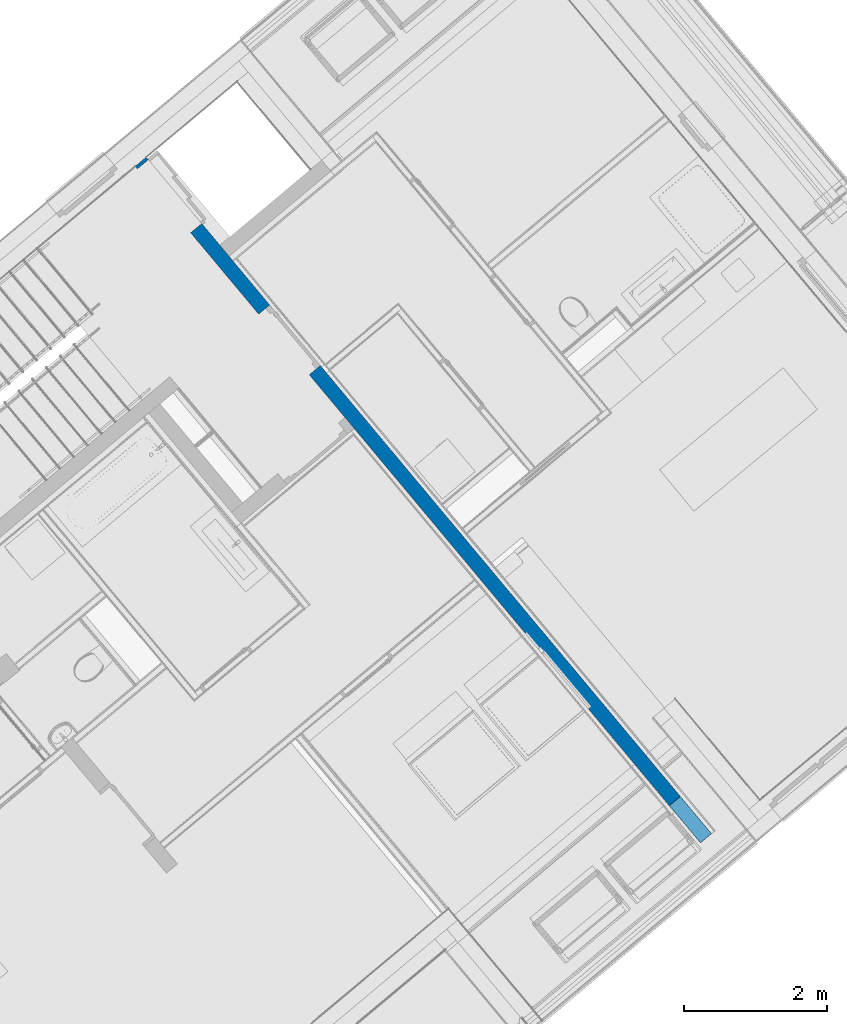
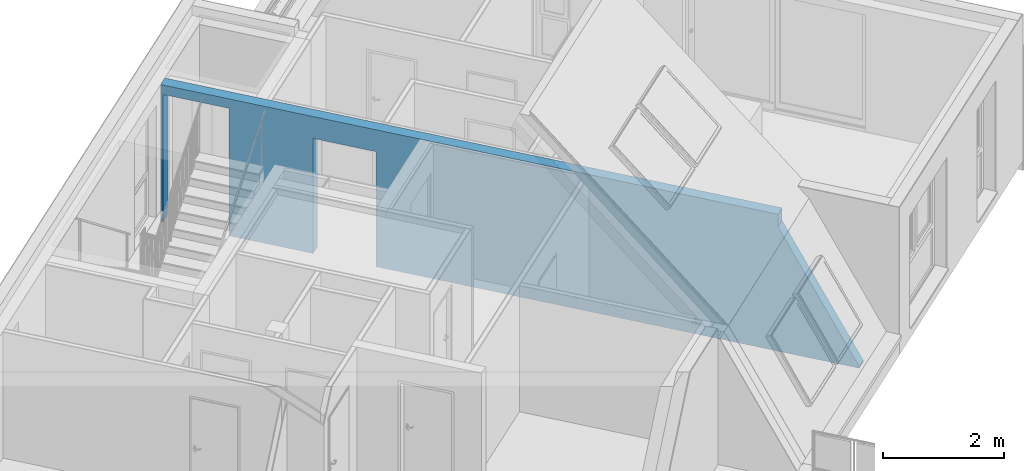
# One storey, part 9 of 61: 1 wall, 2 openings.
"""IFC4 building model written with IfcOpenShell, lengths in metres."""

import ifcopenshell
import ifcopenshell.guid

model = None  # the IFC model being written
_history = None  # IfcOwnerHistory: only IFC2X3 demands one
_inside = {}  # id of a spatial element -> (the spatial element, [elements in it])
_under = {}  # id of a project, library or spatial element -> (it, [spatial elements below it])
_declared = {}  # id of a project -> (the project, [libraries it declares])
_typed = {}  # id of a type object -> (the type object, [elements of that type])
_made_of = {}  # id of a material, layer set ... -> (it, [elements and type objects made of it])


def new_model(schema):
    """Start an empty IFC model of exactly this schema.

    Asked for "IFC4X3", IfcOpenShell would pick the latest addendum, in which some entities
    have other attributes; the version numbers below select the first issue.
    IFC2X3 requires an IfcOwnerHistory on every rooted entity: one is made here for all.
    """
    global model, _history
    if schema == "IFC4X3":
        model = ifcopenshell.file(schema_version=(4, 3, 0, 0))
    else:
        model = ifcopenshell.file(schema=schema)
    _inside.clear()
    _under.clear()
    _declared.clear()
    _typed.clear()
    _made_of.clear()
    _history = None
    if model.schema == "IFC2X3":
        org = make("IfcOrganization", Name="unknown")
        user = make(
            "IfcPersonAndOrganization",
            ThePerson=make("IfcPerson", FamilyName="unknown"),
            TheOrganization=org,
        )
        app = make(
            "IfcApplication",
            ApplicationDeveloper=org,
            Version="unknown",
            ApplicationFullName="unknown",
            ApplicationIdentifier="unknown",
        )
        _history = make(
            "IfcOwnerHistory",
            OwningUser=user,
            OwningApplication=app,
            ChangeAction="ADDED",
            CreationDate=0,
        )
    return model


def make(cls, **values):
    """One entity of the class cls with the attributes given. An attribute that is None is left unset."""
    return model.create_entity(
        cls, **{name: value for name, value in values.items() if value is not None}
    )


def entity(cls, *values):
    """Any entity or typed value of the class cls, its attributes in the order of the schema. None: left unset."""
    e = model.create_entity(cls)
    for i, value in enumerate(values):
        if value is not None:
            e[i] = value
    return e


def rooted(cls, **values):
    """An entity with a GlobalId (a new one), such as an element, a storey or a relation."""
    return make(cls, GlobalId=ifcopenshell.guid.new(), OwnerHistory=_history, **values)


def si_unit(unit_type, name, prefix=None):
    """IfcSIUnit, for example si_unit("LENGTHUNIT", "METRE", prefix="MILLI")."""
    return make("IfcSIUnit", UnitType=unit_type, Prefix=prefix, Name=name)


def converted_unit(unit_type, name, factor, base, dimensions=None, offset=None):
    """IfcConversionBasedUnit, such as the inch: factor (a typed value) times the base unit."""
    return make(
        "IfcConversionBasedUnit"
        if offset is None
        else "IfcConversionBasedUnitWithOffset",
        ConversionOffset=offset,
        Dimensions=None
        if dimensions is None
        else entity("IfcDimensionalExponents", *dimensions),
        UnitType=unit_type,
        Name=name,
        ConversionFactor=make(
            "IfcMeasureWithUnit", ValueComponent=factor, UnitComponent=base
        ),
    )


def derived_unit(unit_type, elements):
    """IfcDerivedUnit: a product of units, each with its exponent."""
    return make(
        "IfcDerivedUnit",
        Elements=[
            make("IfcDerivedUnitElement", Unit=unit, Exponent=power)
            for unit, power in elements
        ],
        UnitType=unit_type,
    )


def assignment(units):
    """IfcUnitAssignment: the units of a project."""
    return None if units is None else make("IfcUnitAssignment", Units=units)


def point(xyz):
    """IfcCartesianPoint."""
    return None if xyz is None else make("IfcCartesianPoint", Coordinates=xyz)


def direction(xyz):
    """IfcDirection."""
    return None if xyz is None else make("IfcDirection", DirectionRatios=xyz)


def frame(location, z_axis=None, x_axis=None):
    """IfcAxis2Placement3D, a coordinate frame: its origin and axes. An axis left out is left unset."""
    return make(
        "IfcAxis2Placement3D",
        Location=point(location),
        Axis=direction(z_axis),
        RefDirection=direction(x_axis),
    )


def origin_with_axes():
    """The frame at (0, 0, 0) with the z axis (0, 0, 1) and the x axis (1, 0, 0) written out."""
    return frame((0.0, 0.0, 0.0), z_axis=(0.0, 0.0, 1.0), x_axis=(1.0, 0.0, 0.0))


def place(relative_to, where):
    """IfcLocalPlacement: puts the frame where relative to a parent placement (None: the world)."""
    return make(
        "IfcLocalPlacement", PlacementRelTo=relative_to, RelativePlacement=where
    )


def context(
    kind, dimensions, precision=None, world=None, true_north=None, identifier=None
):
    """IfcGeometricRepresentationContext, for example the 3D "Model" context."""
    return make(
        "IfcGeometricRepresentationContext",
        ContextIdentifier=identifier,
        ContextType=kind,
        CoordinateSpaceDimension=dimensions,
        Precision=precision,
        WorldCoordinateSystem=world,
        TrueNorth=true_north,
    )


def subcontext(parent, identifier, kind, view, scale=None):
    """IfcGeometricRepresentationSubContext, for example "Body" below "Model"."""
    return make(
        "IfcGeometricRepresentationSubContext",
        ContextIdentifier=identifier,
        ContextType=kind,
        ParentContext=parent,
        TargetScale=scale,
        TargetView=view,
    )


def project(units=None, contexts=None):
    """IfcProject with its units and contexts."""
    return rooted(
        "IfcProject",
        Name="project",
        RepresentationContexts=contexts,
        UnitsInContext=assignment(units),
    )


def spatial(cls, under=None, at=None, **own):
    """A site, building, storey or space (cls), placed at a placement, below another one or the project."""
    s = rooted(cls, ObjectPlacement=at, **own)
    if under is not None:
        _under.setdefault(under.id(), (under, []))[1].append(s)
    return s


def point_list(points):
    """IfcCartesianPointList2D or 3D."""
    cls = (
        "IfcCartesianPointList2D" if len(points[0]) == 2 else "IfcCartesianPointList3D"
    )
    return make(cls, CoordList=points)


def polygons(points, faces, closed=None, point_numbers=None):
    """IfcPolygonalFaceSet: a face is its outer loop, then its inner loops; points numbered from 1."""
    made = []
    for loops in faces:
        if len(loops) == 1:
            made.append(make("IfcIndexedPolygonalFace", CoordIndex=loops[0]))
        else:
            made.append(
                make(
                    "IfcIndexedPolygonalFaceWithVoids",
                    CoordIndex=loops[0],
                    InnerCoordIndices=loops[1:],
                )
            )
    return make(
        "IfcPolygonalFaceSet",
        Coordinates=point_list(points),
        Closed=closed,
        Faces=made,
        PnIndex=point_numbers,
    )


def shape(context_of_items, identifier, shape_type, items):
    """IfcShapeRepresentation: the items that make up one representation, for example the "Body"."""
    return make(
        "IfcShapeRepresentation",
        ContextOfItems=context_of_items,
        RepresentationIdentifier=identifier,
        RepresentationType=shape_type,
        Items=items,
    )


def material(Name=None, Category=None):
    """IfcMaterial."""
    return make("IfcMaterial", Name=Name, Category=Category)


def made_of(thing, what):
    """Note that an element or type object is made of a material, layer set ...; save() writes the relation."""
    if what is not None:
        _made_of.setdefault(what.id(), (what, []))[1].append(thing)
    return thing


def type_object(cls, material=None, **own):
    """A type object (cls), such as IfcWallType, which elements share."""
    return made_of(rooted(cls, **own), material)


def element(
    cls,
    number,
    at=None,
    inside=None,
    cuts=None,
    type_object=None,
    material=None,
    context=None,
    identifier="Body",
    shape_type=None,
    held_by="IfcProductDefinitionShape",
    body=None,
    shapes=None,
    **own,
):
    """One element of the class cls, such as IfcWall. Its Tag is "e" and its number.

    at: its placement. inside: the storey or other place that contains it. cuts: it is an
    opening in that element (IfcRelVoidsElement). A single representation is given by context,
    identifier, shape_type and body (its items); several are given by shapes. held_by: the class
    of the entity that holds the representations. save() writes the other relations.
    """
    e = rooted(cls, Tag="e%d" % number, ObjectPlacement=at, **own)
    if body is not None:
        shapes = [shape(context, identifier, shape_type, body)]
    if shapes is not None:
        e.Representation = make(held_by, Representations=shapes)
    if inside is not None:
        _inside.setdefault(inside.id(), (inside, []))[1].append(e)
    if cuts is not None:
        rooted(
            "IfcRelVoidsElement", RelatingBuildingElement=cuts, RelatedOpeningElement=e
        )
    if type_object is not None:
        _typed.setdefault(type_object.id(), (type_object, []))[1].append(e)
    return made_of(e, material)


def aggregate(whole, parts):
    """IfcRelAggregates: a whole, such as a stair, and the parts it consists of."""
    return rooted("IfcRelAggregates", RelatingObject=whole, RelatedObjects=parts)


def save(model, path):
    """Write the relations noted so far, then the file.

    IfcRelAggregates (storeys below a building ...), IfcRelContainedInSpatialStructure (elements
    in a storey), IfcRelDefinesByType, IfcRelAssociatesMaterial and IfcRelDeclares: one each for
    every whole, place, type object, material and project.
    """
    for whole, parts in _under.values():
        aggregate(whole, parts)
    for where, things in _inside.values():
        rooted(
            "IfcRelContainedInSpatialStructure",
            RelatedElements=things,
            RelatingStructure=where,
        )
    for kind, things in _typed.values():
        rooted("IfcRelDefinesByType", RelatedObjects=things, RelatingType=kind)
    for what, things in _made_of.values():
        rooted("IfcRelAssociatesMaterial", RelatedObjects=things, RelatingMaterial=what)
    for by, libraries in _declared.values():
        rooted("IfcRelDeclares", RelatingContext=by, RelatedDefinitions=libraries)
    model.write(path)


model = new_model("IFC4")

# Units and contexts
model_context = context("Model", 3, precision=1e-05, world=origin_with_axes(), true_north=direction((0.0, 1.0)))
body_context = subcontext(model_context, "Body", "Model", "MODEL_VIEW")
ifc_project = project(units=[si_unit("LENGTHUNIT", "METRE"), si_unit("AREAUNIT", "SQUARE_METRE"), si_unit("VOLUMEUNIT", "CUBIC_METRE"), converted_unit("PLANEANGLEUNIT", "DEGREE", entity("IfcPlaneAngleMeasure", 0.0174532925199), si_unit("PLANEANGLEUNIT", "RADIAN"), dimensions=[0, 0, 0, 0, 0, 0, 0]), converted_unit("TIMEUNIT", "Year", entity("IfcTimeMeasure", 31556926.0), si_unit("TIMEUNIT", "SECOND"), dimensions=[0, 0, 1, 0, 0, 0, 0]), si_unit("MASSUNIT", "GRAM", prefix="KILO"), si_unit("THERMODYNAMICTEMPERATUREUNIT", "DEGREE_CELSIUS"), si_unit("LUMINOUSINTENSITYUNIT", "LUMEN"), si_unit("ENERGYUNIT", "JOULE", prefix="MEGA"), derived_unit("THERMALCONDUCTANCEUNIT", [(si_unit("POWERUNIT", "WATT"), 1), (si_unit("LENGTHUNIT", "METRE"), -1), (si_unit("THERMODYNAMICTEMPERATUREUNIT", "KELVIN"), -1)]), derived_unit("SPECIFICHEATCAPACITYUNIT", [(si_unit("ENERGYUNIT", "JOULE"), 1), (si_unit("MASSUNIT", "GRAM", prefix="KILO"), -1), (si_unit("THERMODYNAMICTEMPERATUREUNIT", "KELVIN"), -1)]), derived_unit("MASSDENSITYUNIT", [(si_unit("MASSUNIT", "GRAM", prefix="KILO"), 1), (si_unit("VOLUMEUNIT", "CUBIC_METRE"), -1)])], contexts=[model_context])

# Site, building, storey, space
site_placement = place(None, frame((-0.00153261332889, -0.00661245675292, 0.0), z_axis=(0.0, 0.0, 1.0), x_axis=(1.0, 0.0, 0.0)))
site = spatial("IfcSite", under=ifc_project, at=site_placement, Name="Gelände", CompositionType="ELEMENT")
building_placement = place(site_placement, origin_with_axes())
building = spatial("IfcBuilding", under=site, at=building_placement, Name="Gebäude", CompositionType="ELEMENT")
storey_placement = place(building_placement, frame((0.0, 0.0, 5.7), z_axis=(0.0, 0.0, 1.0), x_axis=(1.0, 0.0, 0.0)))
storey = spatial("IfcBuildingStorey", under=building, at=storey_placement, Name="DG1", CompositionType="ELEMENT", Elevation=5.7)
space_placement = place(storey_placement, frame((2.62932542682, 25.8435926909, 0.0), z_axis=(0.0, 0.0, 1.0), x_axis=(-0.641209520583, 0.767365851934, 0.0)))
space = spatial("IfcSpace", under=storey, at=space_placement, CompositionType="ELEMENT", PredefinedType="NOTDEFINED")

# Wall, openings
ifc_material = material(Name="Stahlbeton Wand")
wall_type = type_object("IfcWallType", Name="Stahlbeton Wand 200", PredefinedType="NOTDEFINED")
wall_placement = place(space_placement, frame((-10.6880994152, 1.65034084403, 0.0), z_axis=(0.0, 0.0, 1.0), x_axis=(0.999999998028, -6.27933155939e-05, 0.0)))
wall = element("IfcWall", 1, at=wall_placement, inside=space, type_object=wall_type, material=ifc_material, Name="Wand-003", PredefinedType="NOTDEFINED", context=body_context, shape_type="Tessellation", body=[
    polygons([(12.2430989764, 0.0, 2.57), (12.2430989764, 0.0, 0.0), (12.2892436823, 0.0, 0.0), (12.2892436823, 0.0, 2.76), (1.43050869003, 0.0, 2.76), (1.43050869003, 0.0, 2.5082540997), (-1.27117871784e-10, 0.0, 0.0305408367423), (0.0, 0.0, 0.0), (8.50412361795, 0.0, 0.0), (8.50412361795, 0.0, 2.32), (9.60412361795, 0.0, 2.32), (9.60412361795, 0.0, 0.0), (11.0830989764, 0.0, 0.0), (11.0830989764, 0.0, 2.57), (12.2430989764, 0.2, 2.57), (12.2430989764, 0.2, 0.22), (12.2430989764, 0.000189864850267, 0.22), (12.2430989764, 0.000189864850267, 0.0), (12.2430989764, 0.2, 0.0), (12.2892311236, 0.2, 0.0), (12.2892311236, 0.2, 2.76), (1.43039378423, 0.2, 2.76), (1.43039378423, 0.2, 2.50826823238), (0.0, 0.2, 0.0307539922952), (0.0, 0.2, 0.0), (8.50412361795, 0.2, 0.0), (8.50412361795, 0.2, 2.32), (9.60412361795, 0.2, 2.32), (9.60412361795, 0.2, 0.22), (9.60412361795, 0.075, 0.22), (9.60412361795, 0.00127635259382, 0.22), (9.60412361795, 0.00127635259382, 0.0), (11.0830989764, 0.2, 0.0), (9.60412361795, 0.2, 0.0), (11.0830989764, 0.2, 2.57)], [[[1, 2, 3, 4, 5, 6, 7, 8, 9, 10, 11, 12, 13, 14]], [[2, 1, 15, 16, 17, 18]], [[2, 18, 19, 20, 3]], [[4, 3, 20, 21]], [[21, 22, 5, 4]], [[23, 6, 5, 22]], [[23, 24, 7, 6]], [[8, 7, 24, 25]], [[8, 25, 26, 9]], [[9, 26, 27, 10]], [[10, 27, 28, 11]], [[11, 28, 29, 30, 31, 32, 12]], [[33, 13, 12, 32, 34]], [[14, 13, 33, 35]], [[1, 14, 35, 15]], [[35, 33, 34, 29, 28, 27, 26, 25, 24, 23, 22, 21, 20, 19, 16, 15]], [[17, 16, 19, 18]], [[29, 34, 32, 31, 30]]], closed=True),
])
opening_1_placement = place(wall_placement, frame((9.05412361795, 0.0, 0.22), z_axis=(0.0, 0.0, 1.0), x_axis=(1.0, 0.0, 0.0)))
element("IfcOpeningElement", 2, at=opening_1_placement, cuts=wall, Name="Tür-001", context=body_context, identifier="Reference", shape_type="Tessellation", body=[
    polygons([(-0.55, 0.075, -0.22), (-0.55, 0.075, 2.1), (-0.55, 6.4518833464, 2.1), (-0.55, 6.4518833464, -0.22), (-0.55, -6.2518833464, -0.22), (-0.55, -6.2518833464, 2.1), (0.55, 0.075, 2.1), (0.55, 6.4518833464, 2.1), (0.55, -6.2518833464, 2.1), (0.55, 6.4518833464, -0.22), (0.55, 0.075, -0.22), (0.55, -6.2518833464, -0.22)], [[[1, 2, 3, 4]], [[2, 1, 5, 6]], [[7, 8, 3, 2, 6, 9]], [[8, 10, 4, 3]], [[1, 4, 10, 11, 12, 5]], [[6, 5, 12, 9]], [[7, 11, 10, 8]], [[11, 7, 9, 12]]], closed=True),
])
opening_2_placement = place(wall_placement, frame((11.6630989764, 0.0, 0.22), z_axis=(0.0, 0.0, 1.0), x_axis=(1.0, 0.0, 0.0)))
element("IfcOpeningElement", 3, at=opening_2_placement, cuts=wall, Name="Tür-003", context=body_context, identifier="Reference", shape_type="Tessellation", body=[
    polygons([(0.58, 6.4518833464, 2.35), (0.58, 6.4518833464, -0.22), (-0.58, 6.4518833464, -0.22), (-0.58, 6.4518833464, 2.35), (0.58, -6.2518833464, 2.35), (0.58, -6.2518833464, -0.22), (-0.58, -6.2518833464, -0.22), (-0.58, -6.2518833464, 2.35)], [[[1, 2, 3, 4]], [[5, 6, 2, 1]], [[6, 7, 3, 2]], [[7, 8, 4, 3]], [[8, 5, 1, 4]], [[7, 6, 5, 8]]], closed=True),
])

save(model, "model.ifc")
